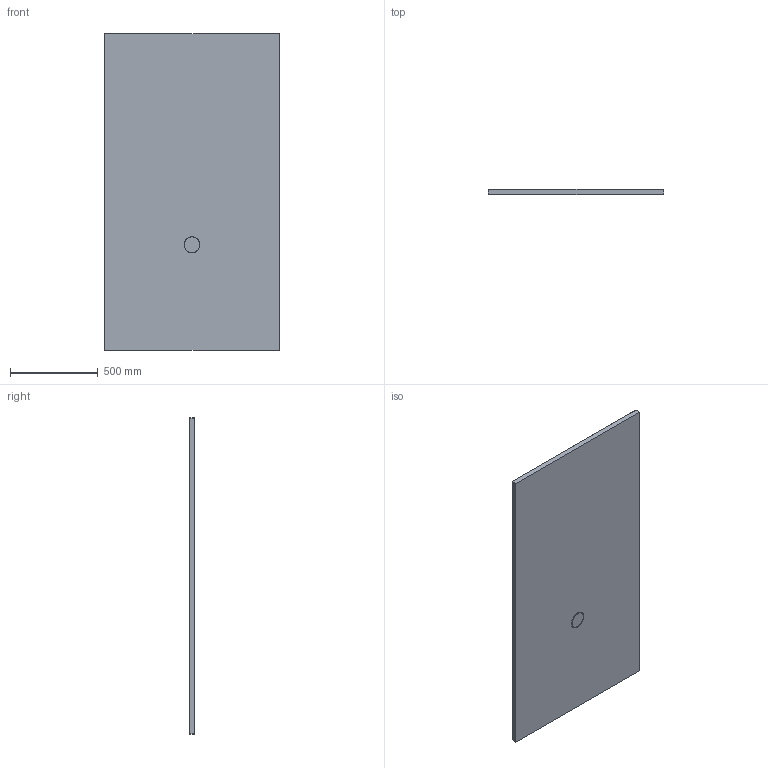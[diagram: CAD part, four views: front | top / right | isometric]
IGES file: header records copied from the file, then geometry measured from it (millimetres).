
Start section: SolidWorks IGES file using analytic representation for surfaces
Global section: file name: D:\Users\M.Szymanski\Desktop\Brodziki\Nias\B_M_NIAS_180x100x1,5.IGS; native system: SolidWorks 2011; preprocessor: SolidWorks 2011; author: M.Szymanski; date: 180222.142645; units: millimetre
Bounding box: 1000 x 30 x 1800 mm (x, y, z)
Surface area: 3781776.2 mm2 (no closed solid volume)
Topology: 0 solids, 0 shells, 45 faces, 680 edges, 679 vertices
Faces by surface type: bspline 25, revolution 20
